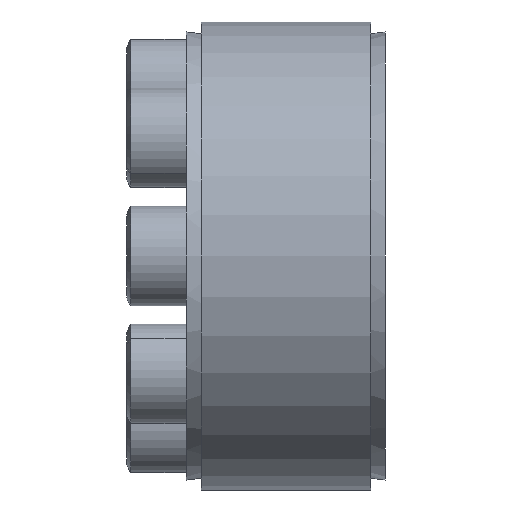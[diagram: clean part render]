
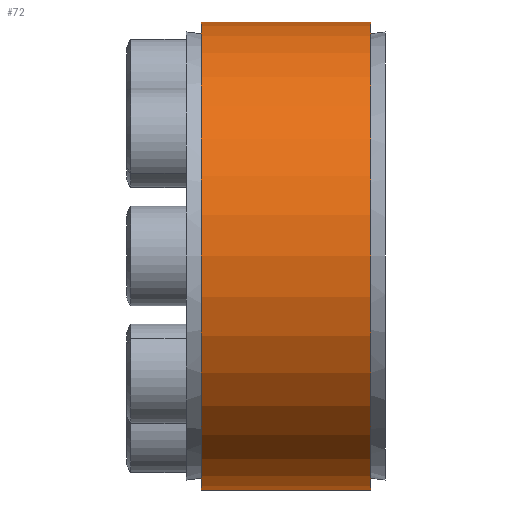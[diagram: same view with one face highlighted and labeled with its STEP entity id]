
A CAD part, front view. The second image highlights one B-rep face of the part: STEP entity #72.
In plain terms, the highlighted cylindrical face has radius 23.5 mm (diameter 47 mm), a partial arc.
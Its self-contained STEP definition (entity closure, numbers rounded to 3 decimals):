
#6 = EDGE_CURVE ( 'NONE', #171, #7, #1796, .T. ) ;
#7 = VERTEX_POINT ( 'NONE', #1792 ) ;
#72 = ADVANCED_FACE ( 'NONE', ( #1870 ), #1869, .T. ) ;
#75 = EDGE_LOOP ( 'NONE', ( #110, #94, #106, #93 ) ) ;
#93 = ORIENTED_EDGE ( 'NONE', *, *, #95, .F. ) ;
#94 = ORIENTED_EDGE ( 'NONE', *, *, #114, .T. ) ;
#95 = EDGE_CURVE ( 'NONE', #175, #7, #1901, .T. ) ;
#106 = ORIENTED_EDGE ( 'NONE', *, *, #6, .T. ) ;
#110 = ORIENTED_EDGE ( 'NONE', *, *, #174, .F. ) ;
#114 = EDGE_CURVE ( 'NONE', #172, #171, #1944, .T. ) ;
#171 = VERTEX_POINT ( 'NONE', #2086 ) ;
#172 = VERTEX_POINT ( 'NONE', #2085 ) ;
#174 = EDGE_CURVE ( 'NONE', #172, #175, #2084, .T. ) ;
#175 = VERTEX_POINT ( 'NONE', #2080 ) ;
#1792 = CARTESIAN_POINT ( 'NONE',  ( 1.5, 0., 23.5 ) ) ;
#1793 = DIRECTION ( 'NONE',  ( -1., 0., 0. ) ) ;
#1794 = VECTOR ( 'NONE', #1793, 1000. ) ;
#1795 = CARTESIAN_POINT ( 'NONE',  ( 0., 0., 23.5 ) ) ;
#1796 = LINE ( 'NONE', #1795, #1794 ) ;
#1864 = DIRECTION ( 'NONE',  ( 0., 0., 1. ) ) ;
#1865 = DIRECTION ( 'NONE',  ( -1., 0., 0. ) ) ;
#1866 = CARTESIAN_POINT ( 'NONE',  ( 0., 0., 0. ) ) ;
#1867 = AXIS2_PLACEMENT_3D ( 'NONE', #1866, #1865, #1864 ) ;
#1869 = CYLINDRICAL_SURFACE ( 'NONE', #1867, 23.5 ) ;
#1870 = FACE_OUTER_BOUND ( 'NONE', #75, .T. ) ;
#1897 = DIRECTION ( 'NONE',  ( 0., 0., 1. ) ) ;
#1898 = DIRECTION ( 'NONE',  ( -1., 0., 0. ) ) ;
#1899 = CARTESIAN_POINT ( 'NONE',  ( 1.5, 0., 0. ) ) ;
#1900 = AXIS2_PLACEMENT_3D ( 'NONE', #1899, #1898, #1897 ) ;
#1901 = CIRCLE ( 'NONE', #1900, 23.5 ) ;
#1940 = DIRECTION ( 'NONE',  ( 0., 0., 1. ) ) ;
#1941 = DIRECTION ( 'NONE',  ( -1., 0., 0. ) ) ;
#1942 = CARTESIAN_POINT ( 'NONE',  ( 18.5, 0., 0. ) ) ;
#1943 = AXIS2_PLACEMENT_3D ( 'NONE', #1942, #1941, #1940 ) ;
#1944 = CIRCLE ( 'NONE', #1943, 23.5 ) ;
#2080 = CARTESIAN_POINT ( 'NONE',  ( 1.5, 0., -23.5 ) ) ;
#2081 = DIRECTION ( 'NONE',  ( -1., 0., 0. ) ) ;
#2082 = VECTOR ( 'NONE', #2081, 1000. ) ;
#2083 = CARTESIAN_POINT ( 'NONE',  ( 0., 0., -23.5 ) ) ;
#2084 = LINE ( 'NONE', #2083, #2082 ) ;
#2085 = CARTESIAN_POINT ( 'NONE',  ( 18.5, 0., -23.5 ) ) ;
#2086 = CARTESIAN_POINT ( 'NONE',  ( 18.5, 0., 23.5 ) ) ;
